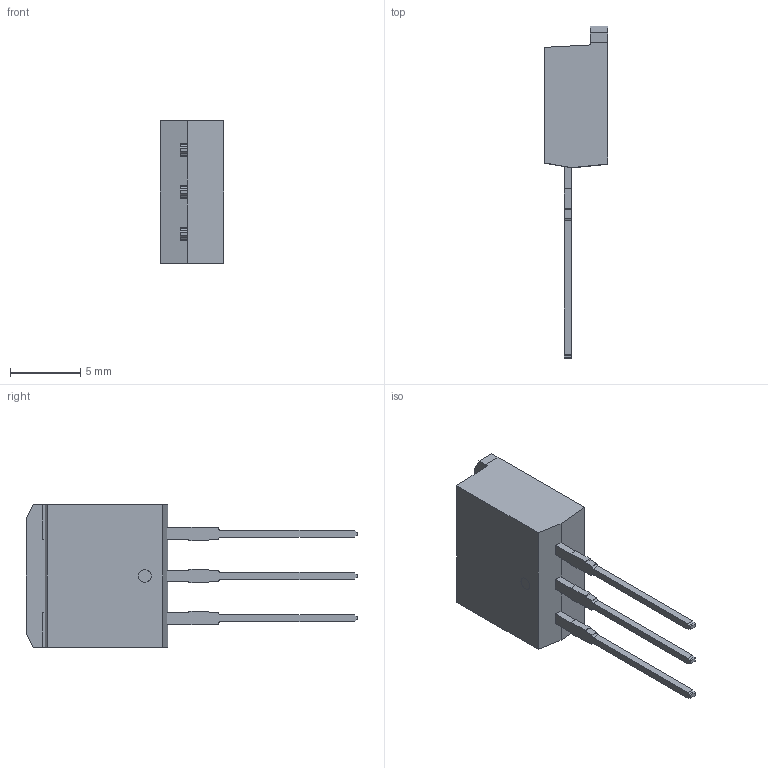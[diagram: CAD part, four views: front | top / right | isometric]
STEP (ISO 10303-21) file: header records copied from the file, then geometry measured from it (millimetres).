
FILE_DESCRIPTION (( 'STEP AP203' ), '1' );
FILE_NAME ('TO262.STEP', '2019-01-14T07:07:13', ( 'User' ), ( 'Microsoft' ), 'SwSTEP 2.0', 'SolidWorks 2014', '' );
FILE_SCHEMA (( 'CONFIG_CONTROL_DESIGN' ));
Length unit declared in the file: millimetre
Products named in the file (1): TO262
Bounding box: 4.55 x 23.65 x 10.18 mm (x, y, z)
Volume: 424.7 mm3; surface area: 460 mm2
Topology: 1 solids, 1 shells, 113 faces, 320 edges, 210 vertices
Faces by surface type: plane 101, cylinder 12
Entity records: 3675 total; most frequent: CARTESIAN_POINT 644, ORIENTED_EDGE 640, DIRECTION 572, EDGE_CURVE 320, LINE 296, VECTOR 296, VERTEX_POINT 210, AXIS2_PLACEMENT_3D 138
